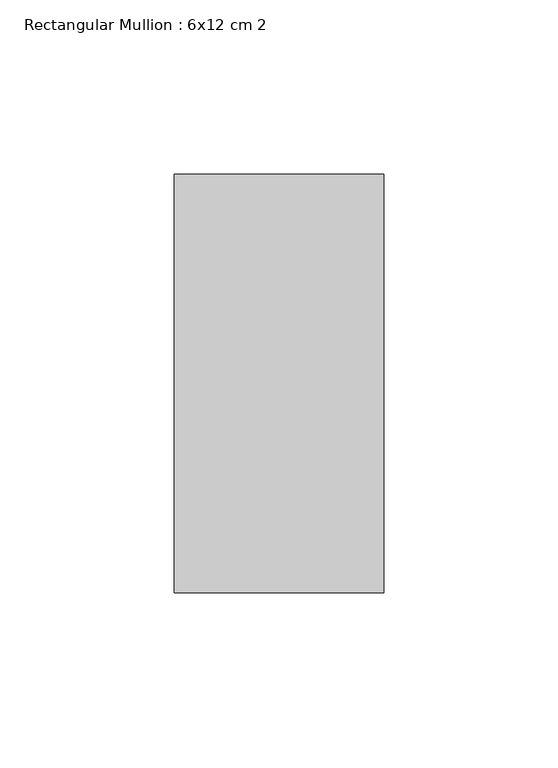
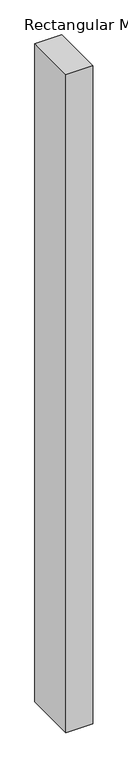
"""IFC4 building model written with IfcOpenShell, lengths in millimetres: member geometry, Rectangular Mullion : 6x12 cm 2."""

from ifc_helpers import new_model, si_unit, frame, origin, place, context, project, spatial, polyline, outline, extrude, source, transform, mapped, element, save


def rectangular_mullion_6x12_cm_2_bfe00fa0(model_context):
    return source(origin(), model_context, "Body", "SweptSolid", [
        extrude(outline(polyline([(0.0, 205.0), (0.0, 85.0), (-60.0, 85.0), (-60.0, 205.0), (0.0, 205.0)])), frame((0.0, 0.0, -1556.1269251), z_axis=(0.0, 0.0, 1.0), x_axis=(1.0, 0.0, 0.0)), (0.0, 0.0, 1.0), 1556.1269251),
    ])


if __name__ == "__main__":
    model = new_model("IFC4")
    model_context = context("Model", 3, world=origin())
    ifc_project = project(units=[si_unit("LENGTHUNIT", "METRE", prefix="MILLI")], contexts=[model_context])
    site = spatial("IfcSite", under=ifc_project)
    building = spatial("IfcBuilding", under=site)
    placement = place(None, origin())
    rectangular_mullion_6x12_cm_2_shape = rectangular_mullion_6x12_cm_2_bfe00fa0(model_context)
    element("IfcMember", 1, ObjectType="Rectangular Mullion : 6x12 cm 2", at=placement, inside=building, context=model_context, shape_type="MappedRepresentation", body=[
        mapped(rectangular_mullion_6x12_cm_2_shape, transform((0.0, 0.0, 0.0), x_axis=(1.0, 0.0, 0.0), y_axis=(0.0, 1.0, 0.0), z_axis=(0.0, 0.0, 1.0))),
    ])
    save(model, "model.ifc")
